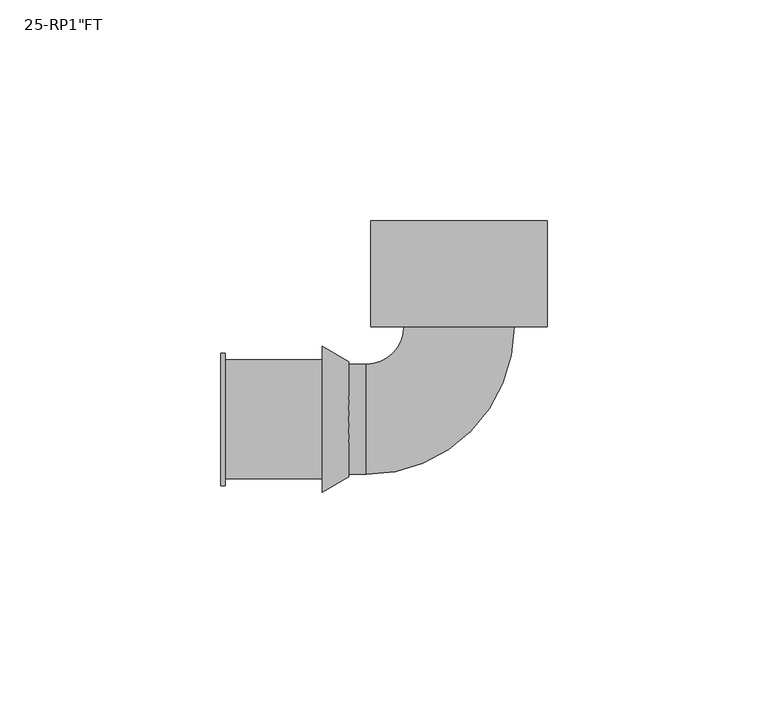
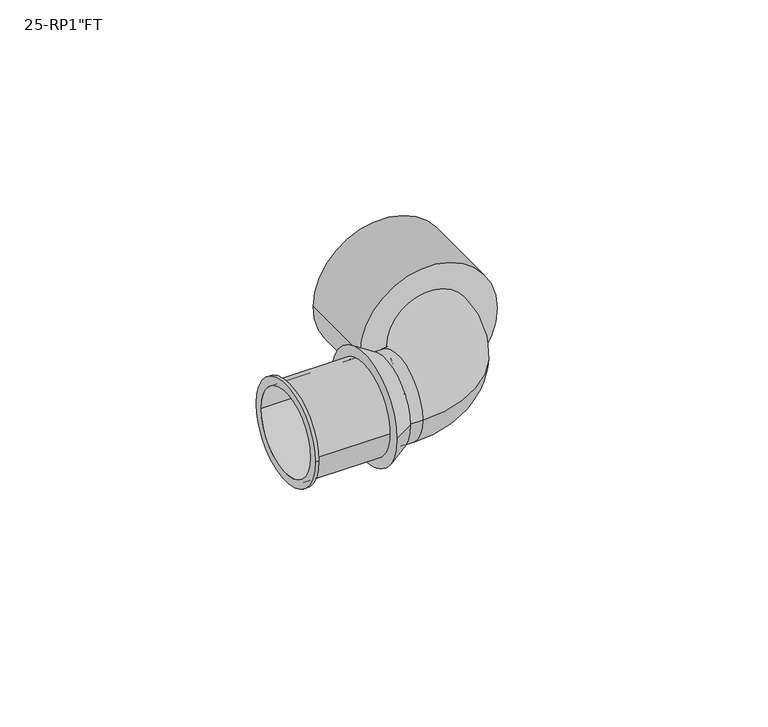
"""IFC4 building model written with IfcOpenShell, lengths in millimetres: pipe fitting geometry."""

from ifc_helpers import new_model, si_unit, point, frame, origin, place, context, project, spatial, polyline, circle_curve, ellipse_curve, trimmed, source, transform, mapped, element, save
from ifc_brep_helpers import plane_surface, cylinder_surface, revolved_surface, advanced_brep


def pipe_fitting_b7c00fc1(model_context):
    return source(origin(), model_context, "Body", "AdvancedBrep", [
        advanced_brep(
        [(-20.0, 45.0, 0.0), (20.0, 45.0, 0.0), (-15.0, 45.0, 0.0), (15.0, 45.0, 0.0), (-20.0, 21.0, 0.0), (20.0, 21.0, 0.0), (-15.0, 22.0, 0.0), (15.0, 22.0, 0.0)],
        [
            (0, 1, circle_curve(frame((0.0, 45.0, 0.0), z_axis=(0.0, 1.0, 0.0), x_axis=(1.0, 0.0, 0.0)), 20.0)),
            (1, 0, circle_curve(frame((0.0, 45.0, 0.0), z_axis=(0.0, 1.0, 0.0), x_axis=(1.0, 0.0, 0.0)), 20.0)),
            (2, 3, circle_curve(frame((0.0, 45.0, 0.0), z_axis=(0.0, -1.0, 0.0), x_axis=(1.0, 0.0, 0.0)), 15.0)),
            (3, 2, circle_curve(frame((0.0, 45.0, 0.0), z_axis=(0.0, -1.0, 0.0), x_axis=(1.0, 0.0, 0.0)), 15.0)),
            (4, 5, circle_curve(frame((0.0, 21.0, 0.0), z_axis=(0.0, -1.0, 0.0), x_axis=(1.0, 0.0, 0.0)), 20.0)),
            (5, 4, circle_curve(frame((0.0, 21.0, 0.0), z_axis=(0.0, -1.0, 0.0), x_axis=(1.0, 0.0, 0.0)), 20.0)),
            (1, 5),
            (4, 0),
            (2, 6),
            (6, 7, circle_curve(frame((0.0, 22.0, 0.0), z_axis=(0.0, -1.0, 0.0), x_axis=(1.0, 0.0, 0.0)), 15.0)),
            (7, 3),
            (7, 6, circle_curve(frame((0.0, 22.0, 0.0), z_axis=(0.0, -1.0, 0.0), x_axis=(1.0, 0.0, 0.0)), 15.0)),
        ],
        [
            plane_surface(frame((0.0, 45.0, 0.0), z_axis=(0.0, 1.0, 0.0), x_axis=(0.0, 0.0, 1.0))),
            plane_surface(frame((0.0, 21.0, 0.0), z_axis=(0.0, -1.0, 0.0), x_axis=(0.0, 0.0, 1.0))),
            cylinder_surface(frame((0.0, 45.0, 0.0), z_axis=(0.0, 1.0, 0.0), x_axis=(1.0, 0.0, 0.0)), 20.0),
            revolved_surface(polyline([(15.0, 22.0, 0.0), (15.0, 45.0, 0.0)]), (0.0, 45.0, 0.0), (0.0, -1.0, 0.0)),
            plane_surface(frame((0.0, 22.0, 0.0), z_axis=(0.0, 1.0, 0.0), x_axis=(0.0, 0.0, 1.0))),
        ],
        [
            (0, [[1, 2], [3, 4]]),
            (1, [[5, 6]]),
            (2, [[-2, 7, -5, 8]]),
            (2, [[-1, -8, -6, -7]]),
            (3, [[-3, 9, 10, 11]]),
            (3, [[-4, -11, 12, -9]]),
            (4, [[-10, -12]]),
        ],
    ),
        advanced_brep(
        [(12.5, 21.0, 0.0), (-12.5, 21.0, 0.0), (-21.0, 12.5, 0.0), (-21.0, -12.5, 0.0), (-25.0, -12.5, 0.0), (-25.0, 12.5, 0.0)],
        [
            (0, 1, circle_curve(frame((0.0, 21.0, 0.0), z_axis=(0.0, 1.0, 0.0), x_axis=(-1.0, 0.0, 0.0)), 12.5)),
            (1, 0, circle_curve(frame((0.0, 21.0, 0.0), z_axis=(0.0, 1.0, 0.0), x_axis=(-1.0, 0.0, 0.0)), 12.5)),
            (1, 2, circle_curve(frame((-21.0, 21.0, 0.0), z_axis=(0.0, 0.0, -1.0), x_axis=(0.0, -1.0, 0.0)), 8.5)),
            (2, 3, circle_curve(frame((-21.0, 0.0, 0.0), z_axis=(1.0, 0.0, 0.0), x_axis=(0.0, 1.0, 0.0)), 12.5)),
            (3, 0, circle_curve(frame((-21.0, 21.0, 0.0), z_axis=(0.0, 0.0, 1.0), x_axis=(0.0, -1.0, 0.0)), 33.5)),
            (3, 2, circle_curve(frame((-21.0, 0.0, 0.0), z_axis=(1.0, 0.0, 0.0), x_axis=(0.0, 1.0, 0.0)), 12.5)),
            (4, 5, circle_curve(frame((-25.0, 0.0, 0.0), z_axis=(-1.0, 0.0, 0.0), x_axis=(0.0, 1.0, 0.0)), 12.5)),
            (5, 4, circle_curve(frame((-25.0, 0.0, 0.0), z_axis=(-1.0, 0.0, 0.0), x_axis=(0.0, 1.0, 0.0)), 12.5)),
            (4, 3),
            (2, 5),
        ],
        [
            plane_surface(frame((0.0, 21.0, 0.0), z_axis=(0.0, 1.0, 0.0), x_axis=(0.0, 0.0, 1.0))),
            revolved_surface(trimmed(ellipse_curve(frame((-21.0, 0.0, 0.0), z_axis=(-1.0, 0.0, 0.0), x_axis=(0.0, 1.0, 0.0)), 12.5, 12.5), [point((-21.0, -12.5, 0.0))], [point((-21.0, 12.5, 0.0))], True, "CARTESIAN"), (-21.0, 21.0, 0.0), (0.0, 0.0, 1.0)),
            revolved_surface(trimmed(ellipse_curve(frame((-21.0, 0.0, 0.0), z_axis=(-1.0, 0.0, 0.0), x_axis=(0.0, 1.0, 0.0)), 12.5, 12.5), [point((-21.0, 12.5, 0.0))], [point((-21.0, -12.5, 0.0))], True, "CARTESIAN"), (-21.0, 21.0, 0.0), (0.0, 0.0, 1.0)),
            plane_surface(frame((-25.0, 0.0, 0.0), z_axis=(-1.0, 0.0, 0.0), x_axis=(0.0, 0.0, 1.0))),
            cylinder_surface(frame((-25.0, 0.0, 0.0), z_axis=(-1.0, 0.0, 0.0), x_axis=(0.0, 1.0, 0.0)), 12.5),
        ],
        [
            (0, [[1, 2]]),
            (1, [[-2, 3, 4, 5]]),
            (2, [[-1, -5, 6, -3]]),
            (3, [[7, 8]]),
            (4, [[-7, 9, -4, 10]]),
            (4, [[-8, -10, -6, -9]]),
        ],
    ),
        advanced_brep(
        [(-25.0, -13.0, 0.0), (-25.0, 13.0, 0.0), (-25.0, 12.5, 0.0), (-25.0, -12.5, 0.0), (-31.0, -16.5, 0.0), (-31.0, 16.5, 0.0), (-31.0, -12.5, 0.0), (-31.0, 12.5, 0.0)],
        [
            (0, 1, circle_curve(frame((-25.0, 0.0, 0.0), z_axis=(1.0, 0.0, 0.0), x_axis=(0.0, -1.0, 0.0)), 13.0)),
            (1, 0, circle_curve(frame((-25.0, 0.0, 0.0), z_axis=(1.0, 0.0, 0.0), x_axis=(0.0, 1.0, 0.0)), 13.0)),
            (2, 3, circle_curve(frame((-25.0, 0.0, 0.0), z_axis=(-1.0, 0.0, 0.0), x_axis=(0.0, 1.0, 0.0)), 12.5)),
            (3, 2, circle_curve(frame((-25.0, 0.0, 0.0), z_axis=(-1.0, 0.0, 0.0), x_axis=(0.0, 1.0, 0.0)), 12.5)),
            (4, 5, circle_curve(frame((-31.0, 0.0, 0.0), z_axis=(-1.0, 0.0, 0.0), x_axis=(0.0, 1.0, 0.0)), 16.5)),
            (5, 4, circle_curve(frame((-31.0, 0.0, 0.0), z_axis=(-1.0, 0.0, 0.0), x_axis=(0.0, -1.0, 0.0)), 16.5)),
            (6, 7, circle_curve(frame((-31.0, 0.0, 0.0), z_axis=(1.0, 0.0, 0.0), x_axis=(0.0, 1.0, 0.0)), 12.5)),
            (7, 6, circle_curve(frame((-31.0, 0.0, 0.0), z_axis=(1.0, 0.0, 0.0), x_axis=(0.0, 1.0, 0.0)), 12.5)),
            (0, 4),
            (5, 1),
            (2, 7),
            (6, 3),
        ],
        [
            plane_surface(frame((-25.0, 0.0, 0.0), z_axis=(1.0, 0.0, 0.0), x_axis=(0.0, 0.0, -1.0))),
            plane_surface(frame((-31.0, 0.0, 0.0), z_axis=(-1.0, 0.0, 0.0), x_axis=(0.0, 0.0, -1.0))),
            revolved_surface(polyline([(-25.0, -13.000000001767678, 0.0), (-31.0, -16.5, 0.0)]), (-2.7142857, 0.0, 0.0), (-1.0, 0.0, 0.0)),
            revolved_surface(polyline([(-25.0, 13.000000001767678, 0.0), (-31.0, 16.5, 0.0)]), (-2.7142857, 0.0, 0.0), (-1.0, 0.0, 0.0)),
            revolved_surface(polyline([(-25.0, 12.5, 0.0), (-31.0, 12.5, 0.0)]), (-31.0, 0.0, 0.0), (1.0, 0.0, 0.0)),
        ],
        [
            (0, [[1, 2], [3, 4]]),
            (1, [[5, 6], [7, 8]]),
            (2, [[-1, 9, -6, 10]]),
            (3, [[-2, -10, -5, -9]]),
            (4, [[11, -7, 12, -3]]),
            (4, [[-11, -4, -12, -8]]),
        ],
    ),
        advanced_brep(
        [(-54.0, -15.0, 0.0), (-54.0, 15.0, 0.0), (-54.0, -12.5, 0.0), (-54.0, 12.5, 0.0), (-31.0, -13.5, 0.0), (-31.0, 13.5, 0.0), (-31.0, -12.5, 0.0), (-31.0, 12.5, 0.0), (-53.0, 13.5, 0.0), (-53.0, -13.5, 0.0), (-53.0, -15.0, 0.0), (-53.0, 15.0, 0.0)],
        [
            (0, 1, circle_curve(frame((-54.0, 0.0, 0.0), z_axis=(-1.0, 0.0, 0.0), x_axis=(0.0, 1.0, 0.0)), 15.0)),
            (1, 0, circle_curve(frame((-54.0, 0.0, 0.0), z_axis=(-1.0, 0.0, 0.0), x_axis=(0.0, 1.0, 0.0)), 15.0)),
            (2, 3, circle_curve(frame((-54.0, 0.0, 0.0), z_axis=(1.0, 0.0, 0.0), x_axis=(0.0, 1.0, 0.0)), 12.5)),
            (3, 2, circle_curve(frame((-54.0, 0.0, 0.0), z_axis=(1.0, 0.0, 0.0), x_axis=(0.0, 1.0, 0.0)), 12.5)),
            (4, 5, circle_curve(frame((-31.0, 0.0, 0.0), z_axis=(1.0, 0.0, 0.0), x_axis=(0.0, 1.0, 0.0)), 13.5)),
            (5, 4, circle_curve(frame((-31.0, 0.0, 0.0), z_axis=(1.0, 0.0, 0.0), x_axis=(0.0, 1.0, 0.0)), 13.5)),
            (6, 7, circle_curve(frame((-31.0, 0.0, 0.0), z_axis=(-1.0, 0.0, 0.0), x_axis=(0.0, 1.0, 0.0)), 12.5)),
            (7, 6, circle_curve(frame((-31.0, 0.0, 0.0), z_axis=(-1.0, 0.0, 0.0), x_axis=(0.0, 1.0, 0.0)), 12.5)),
            (2, 6),
            (7, 3),
            (5, 8),
            (8, 9, circle_curve(frame((-53.0, 0.0, 0.0), z_axis=(1.0, 0.0, 0.0), x_axis=(0.0, 1.0, 0.0)), 13.5)),
            (9, 4),
            (9, 8, circle_curve(frame((-53.0, 0.0, 0.0), z_axis=(1.0, 0.0, 0.0), x_axis=(0.0, 1.0, 0.0)), 13.5)),
            (10, 11, circle_curve(frame((-53.0, 0.0, 0.0), z_axis=(1.0, 0.0, 0.0), x_axis=(0.0, 1.0, 0.0)), 15.0)),
            (11, 10, circle_curve(frame((-53.0, 0.0, 0.0), z_axis=(1.0, 0.0, 0.0), x_axis=(0.0, 1.0, 0.0)), 15.0)),
            (0, 10),
            (11, 1),
        ],
        [
            plane_surface(frame((-54.0, 0.0, 0.0), z_axis=(-1.0, 0.0, 0.0), x_axis=(0.0, 0.0, 1.0))),
            plane_surface(frame((-31.0, 0.0, 0.0), z_axis=(1.0, 0.0, 0.0), x_axis=(0.0, 0.0, 1.0))),
            revolved_surface(polyline([(-31.0, 12.5, 0.0), (-54.0, 12.5, 0.0)]), (-54.0, 0.0, 0.0), (1.0, 0.0, 0.0)),
            cylinder_surface(frame((-54.0, 0.0, 0.0), z_axis=(-1.0, 0.0, 0.0), x_axis=(0.0, 1.0, 0.0)), 13.5),
            plane_surface(frame((-53.0, 0.0, 0.0), z_axis=(1.0, 0.0, 0.0), x_axis=(0.0, 0.0, 1.0))),
            cylinder_surface(frame((-54.0, 0.0, 0.0), z_axis=(-1.0, 0.0, 0.0), x_axis=(0.0, 1.0, 0.0)), 15.0),
        ],
        [
            (0, [[1, 2], [3, 4]]),
            (1, [[5, 6], [7, 8]]),
            (2, [[-3, 9, -8, 10]]),
            (2, [[-4, -10, -7, -9]]),
            (3, [[-6, 11, 12, 13]]),
            (3, [[-5, -13, 14, -11]]),
            (4, [[15, 16], [-12, -14]]),
            (5, [[-1, 17, -16, 18]]),
            (5, [[-2, -18, -15, -17]]),
        ],
    ),
    ])


if __name__ == "__main__":
    model = new_model("IFC4")
    model_context = context("Model", 3, world=origin())
    ifc_project = project(units=[si_unit("LENGTHUNIT", "METRE", prefix="MILLI")], contexts=[model_context])
    site = spatial("IfcSite", under=ifc_project)
    building = spatial("IfcBuilding", under=site)
    placement = place(None, origin())
    pipe_fitting_shape = pipe_fitting_b7c00fc1(model_context)
    element("IfcPipeFitting", 1, ObjectType="SuperPipe_ElbowAdapterFT_MAX_RP : 25-RP1\"FT", at=placement, inside=building, context=model_context, shape_type="MappedRepresentation", body=[
        mapped(pipe_fitting_shape, transform((0.0, 0.0, 0.0), x_axis=(1.0, 0.0, 0.0), y_axis=(0.0, 1.0, 0.0), z_axis=(0.0, 0.0, 1.0))),
    ])
    save(model, "model.ifc")
